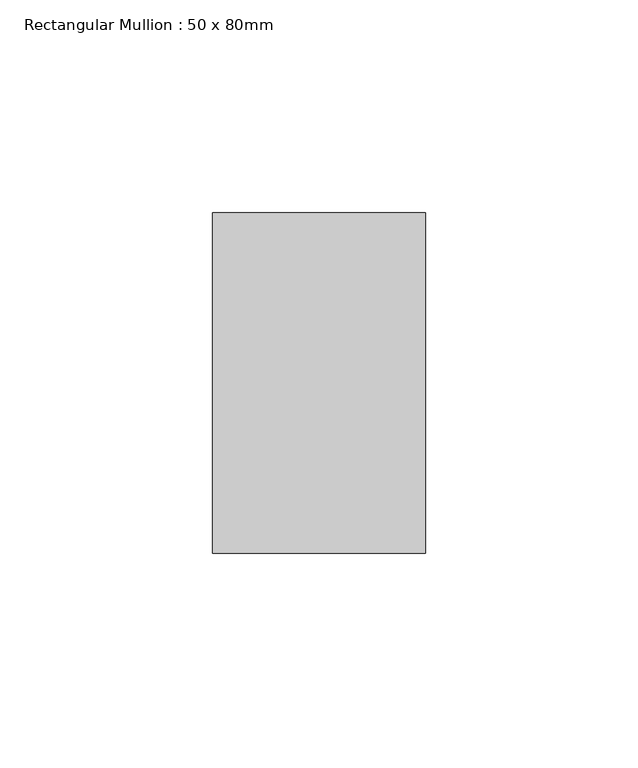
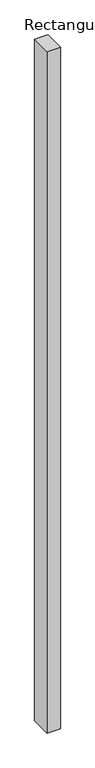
"""IFC4 building model written with IfcOpenShell, lengths in millimetres: member geometry, Rectangular Mullion : 50 x 80mm."""

from ifc_helpers import new_model, si_unit, frame, origin, place, context, project, spatial, polyline, outline, extrude, source, transform, mapped, element, save


def rectangular_mullion_50_x_80mm_b125b9fd(model_context):
    return source(origin(), model_context, "Body", "SweptSolid", [
        extrude(outline(polyline([(0.0, 25.0), (0.0, -55.0), (-50.0, -55.0), (-50.0, 25.0), (0.0, 25.0)])), frame((0.0, 0.0, -2700.8896883), z_axis=(0.0, 0.0, 1.0), x_axis=(1.0, 0.0, 0.0)), (0.0, 0.0, 1.0), 2700.8896883),
    ])


if __name__ == "__main__":
    model = new_model("IFC4")
    model_context = context("Model", 3, world=origin())
    ifc_project = project(units=[si_unit("LENGTHUNIT", "METRE", prefix="MILLI")], contexts=[model_context])
    site = spatial("IfcSite", under=ifc_project)
    building = spatial("IfcBuilding", under=site)
    placement = place(None, origin())
    rectangular_mullion_50_x_80mm_shape = rectangular_mullion_50_x_80mm_b125b9fd(model_context)
    element("IfcMember", 1, ObjectType="Rectangular Mullion : 50 x 80mm", at=placement, inside=building, context=model_context, shape_type="MappedRepresentation", body=[
        mapped(rectangular_mullion_50_x_80mm_shape, transform((0.0, 0.0, 0.0), x_axis=(1.0, 0.0, 0.0), y_axis=(0.0, 1.0, 0.0), z_axis=(0.0, 0.0, 1.0))),
    ])
    save(model, "model.ifc")
